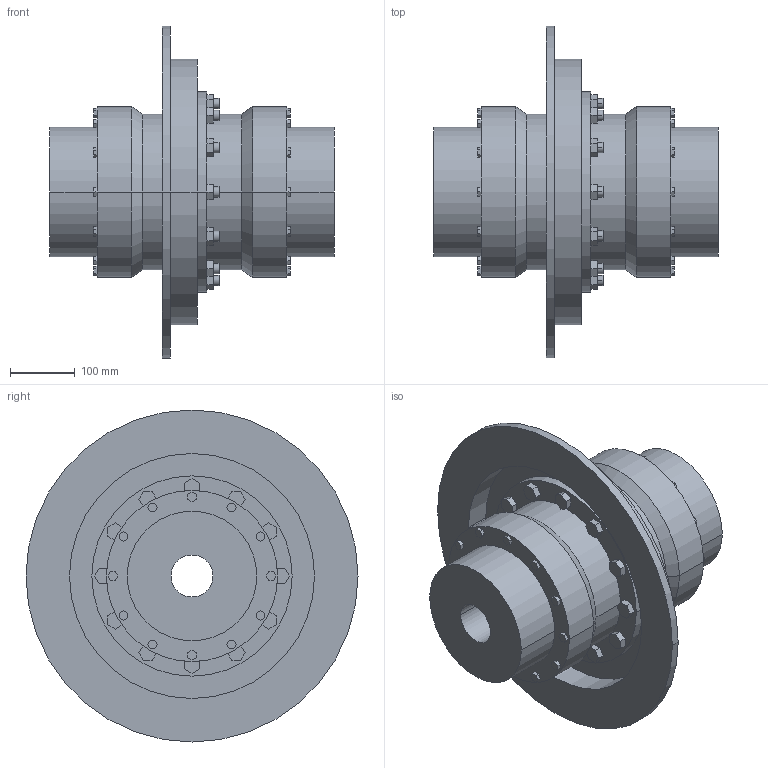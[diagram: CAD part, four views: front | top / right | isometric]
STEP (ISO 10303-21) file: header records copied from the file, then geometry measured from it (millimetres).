
FILE_DESCRIPTION((''),'2;1');
FILE_NAME('A19727500-0_ASM','2019-05-23T',('AB_Roschiwal'),('RENK AG'),'PRO/ENGINEER BY PARAMETRIC TECHNOLOGY CORPORATION, 2015440','PRO/ENGINEER BY PARAMETRIC TECHNOLOGY CORPORATION, 2015440','');
FILE_SCHEMA(('CONFIG_CONTROL_DESIGN'));
Length unit declared in the file: millimetre
Products named in the file (4): SBKT125_GEHAEUSE; SBKT125_NABE; SBKT125_BREMSSCHEIBE; A19727500-0_ASM
Assembly tree (4 placements, depth 2):
  A19727500-0_ASM
    SBKT125_GEHAEUSE
    SBKT125_NABE  x2
    SBKT125_BREMSSCHEIBE
Bounding box: 440 x 514 x 514 mm (x, y, z)
Volume: 16732873.2 mm3; surface area: 1501556.5 mm2
Topology: 4 solids, 4 shells, 470 faces, 1156 edges, 768 vertices
Faces by surface type: plane 370, cylinder 96, cone 4
Entity records: 13604 total; most frequent: CARTESIAN_POINT 2350, ORIENTED_EDGE 2264, DIRECTION 2240, EDGE_CURVE 1132, VECTOR 956, LINE 956, VERTEX_POINT 752, AXIS2_PLACEMENT_3D 642
